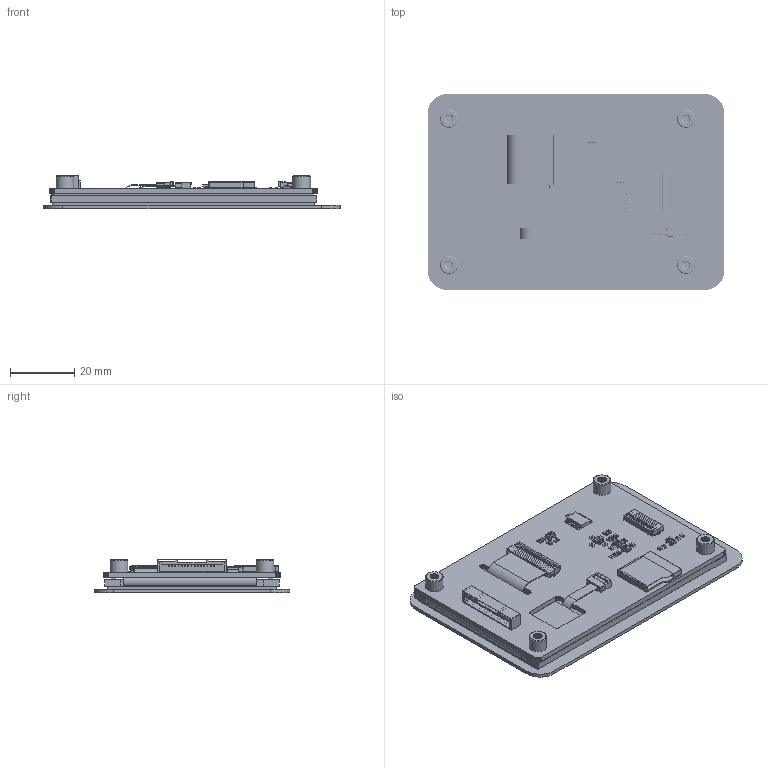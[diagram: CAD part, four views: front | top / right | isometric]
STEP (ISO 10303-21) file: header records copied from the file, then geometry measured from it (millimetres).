
FILE_DESCRIPTION(/* description */ ('Open CASCADE Model'),/* implementation_level */ '2;1');
FILE_NAME(/* name */ '3.5inch_Capacitive_Touch_LCD.step',/* time_stamp */ '2025-04-09T19:21:43+08:00',/* author */ (''),/* organization */ (''),/* preprocessor_version */ 'ST-DEVELOPER v20.1',/* originating_system */ 'Autodesk Translation Framework v14.4.0.0',/* authorisation */ '');
FILE_SCHEMA (('AUTOMOTIVE_DESIGN { 1 0 10303 214 3 1 1 }'));
Products named in the file (79): PCB; Board; R11; R8; R7; R6; R13; R5; R10; R9; R3; R4; R2; R1; M1; SOT23-6; SOT23-6-13550_AF0_ASM; SOT23-6-7933_AF0; SOT23-5AND6__100; U2; SOT23-5-2; SOT23-5-14113_AF0_ASM; SOT23-5AND6_00; SOT23-5-14065_AF0; C7; U1; 899400336; Extruded; 899400464; Extruded_1; T1; Q2; R12; R16; R14; Q1; SOT-23; C2; C6; C5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
Assembly tree (178 placements, depth 7):
  PCB
    Board
      R11
        R0603
          R_0603-3615_AF0_ASM
            R_0603-3601_AF0_ASM
              _2_1_2_3_4_AF0
              _7_1_2_AF0
              5_1_2_3_400
      R8
        R0603
          R_0603-3615_AF0_ASM
            R_0603-3601_AF0_ASM
              _2_1_2_3_4_AF0
              _7_1_2_AF0
              5_1_2_3_400
      R7
        R0603
          R_0603-3615_AF0_ASM
            R_0603-3601_AF0_ASM
              _2_1_2_3_4_AF0
              _7_1_2_AF0
              5_1_2_3_400
      R6
        R0603
          R_0603-3615_AF0_ASM
            R_0603-3601_AF0_ASM
              _2_1_2_3_4_AF0
              _7_1_2_AF0
              5_1_2_3_400
      R13
        R0603
          R_0603-3615_AF0_ASM
            R_0603-3601_AF0_ASM
              _2_1_2_3_4_AF0
              _7_1_2_AF0
              5_1_2_3_400
      R5
        R0603
          R_0603-3615_AF0_ASM
            R_0603-3601_AF0_ASM
              _2_1_2_3_4_AF0
              _7_1_2_AF0
              5_1_2_3_400
      R10
        R0603
          R_0603-3615_AF0_ASM
            R_0603-3601_AF0_ASM
              _2_1_2_3_4_AF0
              _7_1_2_AF0
              5_1_2_3_400
      R9
        R0603
          R_0603-3615_AF0_ASM
            R_0603-3601_AF0_ASM
              _2_1_2_3_4_AF0
              _7_1_2_AF0
              5_1_2_3_400
      R3
        R0603
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Bounding box: 92.45 x 61.01 x 10.55 mm (x, y, z)
Volume: 27979.9 mm3; surface area: 38173 mm2
Topology: 187 solids, 187 shells, 15156 faces, 40373 edges, 26460 vertices
Faces by surface type: plane 10774, bspline 3219, cylinder 923, sphere 140, torus 88, cone 12
Full cylindrical faces by diameter (mm): 0.25 x2, 2.5 x36, 3.1 x4, 4.3 x8, 5.5 x4
Entity records: 167585 total; most frequent: CARTESIAN_POINT 51922, ORIENTED_EDGE 24912, DIRECTION 20262, EDGE_CURVE 12456, LINE 10564, VECTOR 10564, VERTEX_POINT 8149, AXIS2_PLACEMENT_3D 4849
